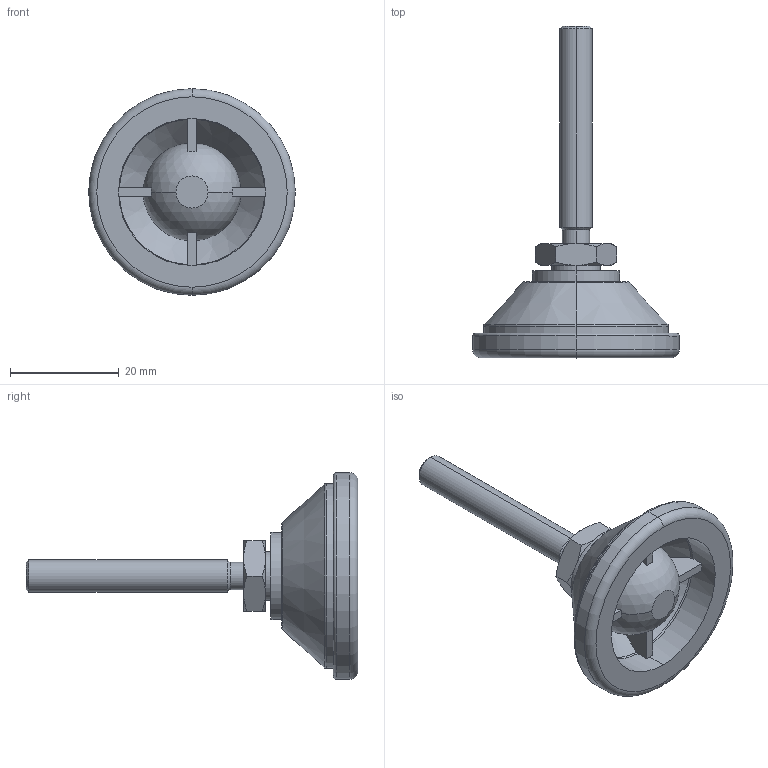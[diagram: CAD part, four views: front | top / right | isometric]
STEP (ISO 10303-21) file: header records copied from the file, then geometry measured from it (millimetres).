
FILE_DESCRIPTION (( 'STEP AP203' ), '1' );
FILE_NAME ('3472.W062.step', '2009-10-21T16:57:14', ( 'Wixroyd' ), ( 'Wixroyd' ), 'SwSTEP 2.0', 'SolidWorks 2009', '' );
FILE_SCHEMA (( 'CONFIG_CONTROL_DESIGN' ));
Length unit declared in the file: millimetre
Products named in the file (3): 3472.W062; Part1_3472W062; Part2_3472W062
Assembly tree (2 placements, depth 2):
  3472.W062
    Part2_3472W062
    Part1_3472W062
Bounding box: 38 x 61 x 38 mm (x, y, z)
Volume: 9823.4 mm3; surface area: 6668.3 mm2
Topology: 2 solids, 2 shells, 82 faces, 200 edges, 124 vertices
Faces by surface type: plane 26, cone 22, cylinder 16, torus 12, sphere 6
Entity records: 2787 total; most frequent: CARTESIAN_POINT 597, DIRECTION 432, ORIENTED_EDGE 382, AXIS2_PLACEMENT_3D 194, EDGE_CURVE 191, VERTEX_POINT 119, CIRCLE 107, EDGE_LOOP 88
